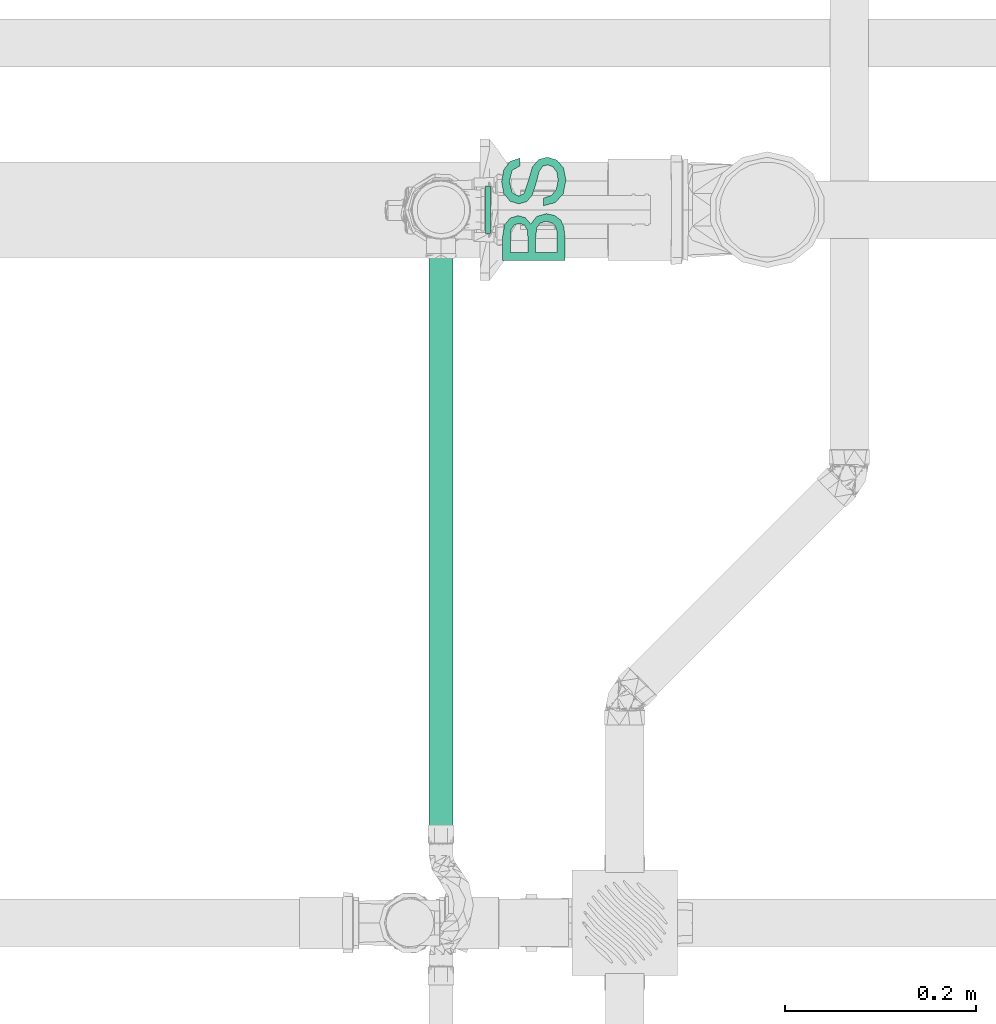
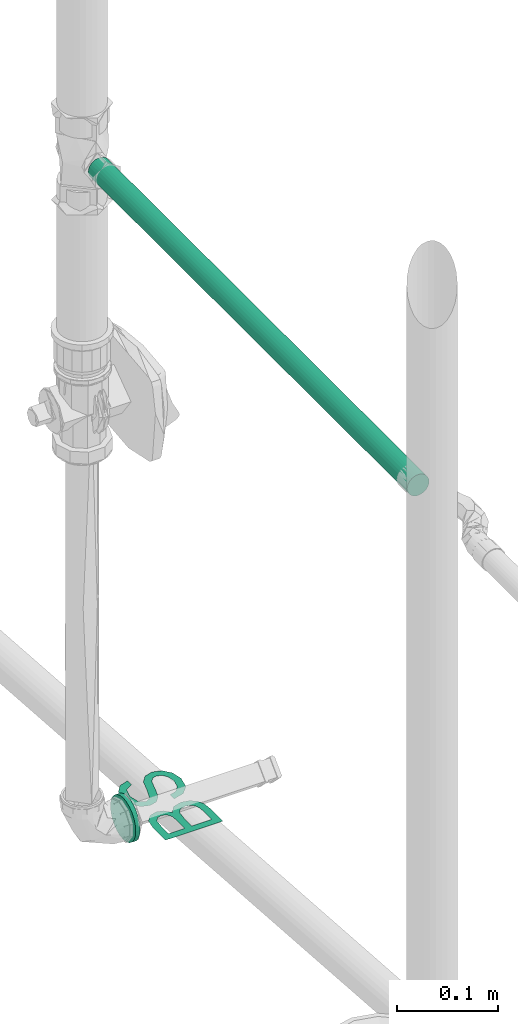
# One storey, part 80 of 589: 1 flow segment, 1 flow terminal.
"""IFC2X3 building model written with IfcOpenShell, lengths in millimetres."""

from ifc_helpers import new_model, entity, si_unit, converted_unit, derived_unit, direction, frame, frame_2d, origin, place, context, subcontext, project, spatial, circle, extrude, face_set, surface_model, source, transform, mapped, material, type_object, type_shapes, element, save


model = new_model("IFC2X3")

# Units and contexts
model_context = context("Model", 3, precision=0.01, world=origin(), true_north=direction((6.123031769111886e-17, 1.0)))
body_context = subcontext(model_context, "Body", "Model", "MODEL_VIEW")
ifc_project = project(units=[si_unit("LENGTHUNIT", "METRE", prefix="MILLI"), si_unit("AREAUNIT", "SQUARE_METRE"), si_unit("VOLUMEUNIT", "CUBIC_METRE"), converted_unit("PLANEANGLEUNIT", "DEGREE", entity("IfcRatioMeasure", 0.017453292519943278), si_unit("PLANEANGLEUNIT", "RADIAN"), dimensions=[0, 0, 0, 0, 0, 0, 0]), si_unit("MASSUNIT", "GRAM", prefix="KILO"), derived_unit("MASSDENSITYUNIT", [(si_unit("MASSUNIT", "GRAM", prefix="KILO"), 1), (si_unit("LENGTHUNIT", "METRE"), -3)]), derived_unit("IONCONCENTRATIONUNIT", [(si_unit("MASSUNIT", "GRAM", prefix="KILO"), 1), (si_unit("LENGTHUNIT", "METRE"), -3)]), derived_unit("MOMENTOFINERTIAUNIT", [(si_unit("LENGTHUNIT", "METRE"), 4)]), si_unit("TIMEUNIT", "SECOND"), si_unit("FREQUENCYUNIT", "HERTZ"), si_unit("THERMODYNAMICTEMPERATUREUNIT", "DEGREE_CELSIUS"), derived_unit("THERMALTRANSMITTANCEUNIT", [(si_unit("MASSUNIT", "GRAM", prefix="KILO"), 1), (si_unit("THERMODYNAMICTEMPERATUREUNIT", "KELVIN"), -1), (si_unit("TIMEUNIT", "SECOND"), -3)]), derived_unit("THERMALCONDUCTANCEUNIT", [(si_unit("MASSUNIT", "GRAM", prefix="KILO"), 1), (si_unit("THERMODYNAMICTEMPERATUREUNIT", "KELVIN"), -1), (si_unit("TIMEUNIT", "SECOND"), -3), (si_unit("LENGTHUNIT", "METRE"), 1)]), derived_unit("VOLUMETRICFLOWRATEUNIT", [(si_unit("LENGTHUNIT", "METRE"), 3), (si_unit("TIMEUNIT", "SECOND"), -1)]), derived_unit("MASSFLOWRATEUNIT", [(si_unit("MASSUNIT", "GRAM", prefix="KILO"), 1), (si_unit("TIMEUNIT", "SECOND"), -1)]), derived_unit("ROTATIONALFREQUENCYUNIT", [(si_unit("TIMEUNIT", "SECOND"), -1)]), si_unit("ELECTRICCURRENTUNIT", "AMPERE"), si_unit("ELECTRICVOLTAGEUNIT", "VOLT"), si_unit("POWERUNIT", "WATT"), si_unit("FORCEUNIT", "NEWTON", prefix="KILO"), si_unit("ILLUMINANCEUNIT", "LUX"), si_unit("LUMINOUSFLUXUNIT", "LUMEN"), si_unit("LUMINOUSINTENSITYUNIT", "CANDELA"), derived_unit("USERDEFINED", [(si_unit("MASSUNIT", "GRAM", prefix="KILO"), -1), (si_unit("LENGTHUNIT", "METRE"), -2), (si_unit("TIMEUNIT", "SECOND"), 3), (si_unit("LUMINOUSFLUXUNIT", "LUMEN"), 1)]), derived_unit("USERDEFINED", [(si_unit("MASSUNIT", "GRAM", prefix="KILO"), 1), (si_unit("TIMEUNIT", "SECOND"), -3), (si_unit("LENGTHUNIT", "METRE"), 3), (si_unit("ELECTRICCURRENTUNIT", "AMPERE"), -2)]), derived_unit("SOUNDPOWERUNIT", [(si_unit("MASSUNIT", "GRAM", prefix="KILO"), 1), (si_unit("TIMEUNIT", "SECOND"), -3), (si_unit("LENGTHUNIT", "METRE"), 2)]), derived_unit("SOUNDPRESSUREUNIT", [(si_unit("MASSUNIT", "GRAM", prefix="KILO"), 1), (si_unit("LENGTHUNIT", "METRE"), -1), (si_unit("TIMEUNIT", "SECOND"), -2)]), derived_unit("LINEARVELOCITYUNIT", [(si_unit("LENGTHUNIT", "METRE"), 1), (si_unit("TIMEUNIT", "SECOND"), -1)]), si_unit("PRESSUREUNIT", "PASCAL"), derived_unit("USERDEFINED", [(si_unit("MASSUNIT", "GRAM", prefix="KILO"), 1), (si_unit("LENGTHUNIT", "METRE"), -2), (si_unit("TIMEUNIT", "SECOND"), -2)]), derived_unit("LINEARFORCEUNIT", [(si_unit("MASSUNIT", "GRAM", prefix="KILO"), 1), (si_unit("TIMEUNIT", "SECOND"), -2)]), derived_unit("PLANARFORCEUNIT", [(si_unit("MASSUNIT", "GRAM", prefix="KILO"), 1), (si_unit("LENGTHUNIT", "METRE"), -1), (si_unit("TIMEUNIT", "SECOND"), -2)]), derived_unit("SPECIFICHEATCAPACITYUNIT", [(si_unit("THERMODYNAMICTEMPERATUREUNIT", "KELVIN"), -1), (si_unit("LENGTHUNIT", "METRE"), 2), (si_unit("TIMEUNIT", "SECOND"), -2)]), derived_unit("HEATINGVALUEUNIT", [(si_unit("LENGTHUNIT", "METRE"), 2), (si_unit("TIMEUNIT", "SECOND"), -2)]), derived_unit("VAPORPERMEABILITYUNIT", [(si_unit("LENGTHUNIT", "METRE"), -1), (si_unit("TIMEUNIT", "SECOND"), 1)]), derived_unit("DYNAMICVISCOSITYUNIT", [(si_unit("MASSUNIT", "GRAM", prefix="KILO"), 1), (si_unit("TIMEUNIT", "SECOND"), -1), (si_unit("LENGTHUNIT", "METRE"), -1)]), derived_unit("THERMALEXPANSIONCOEFFICIENTUNIT", [(si_unit("THERMODYNAMICTEMPERATUREUNIT", "KELVIN"), -1)]), derived_unit("MODULUSOFELASTICITYUNIT", [(si_unit("MASSUNIT", "GRAM", prefix="KILO"), 1), (si_unit("LENGTHUNIT", "METRE"), -1), (si_unit("TIMEUNIT", "SECOND"), -2)]), derived_unit("ISOTHERMALMOISTURECAPACITYUNIT", [(si_unit("LENGTHUNIT", "METRE"), 3), (si_unit("MASSUNIT", "GRAM", prefix="KILO"), -1)]), derived_unit("MOISTUREDIFFUSIVITYUNIT", [(si_unit("TIMEUNIT", "SECOND"), -1), (si_unit("LENGTHUNIT", "METRE"), 2)])], contexts=[model_context])

# Site, building, storey
site_placement = place(None, origin())
site = spatial("IfcSite", under=ifc_project, at=site_placement, Name="Default", CompositionType="ELEMENT")
building_placement = place(site_placement, origin())
building = spatial("IfcBuilding", under=site, at=building_placement, CompositionType="ELEMENT")
storey_placement = place(building_placement, frame((0.0, 0.0, 100.0)))
storey = spatial("IfcBuildingStorey", under=building, at=storey_placement, Name="TÉRREO", CompositionType="ELEMENT", Elevation=100.0)

# Flow segment
pipe_segment_type = type_object("IfcPipeSegmentType", Name="Tipos de tubos:PVC Marrom Soldável", PredefinedType="NOTDEFINED")
flow_segment_placement = place(storey_placement, origin())
element("IfcFlowSegment", 1, at=flow_segment_placement, inside=storey, type_object=pipe_segment_type, Name="Tipos de tubos:PVC Marrom Soldável", ObjectType="Tipos de tubos:PVC Marrom Soldável", context=body_context, shape_type="SweptSolid", body=[
    extrude(circle(Radius=12.5, at=frame_2d((0.0, 3.1470778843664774e-27), x_axis=(1.0, 0.0))), frame((-7562.714972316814, -1191.8519804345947, 1200.0), z_axis=(0.0, 1.0, 0.0), x_axis=(1.0, 0.0, 0.0)), (0.0, 0.0, 1.0), 629.227842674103),
])

# Flow terminal
ifc_material = material(Name="<Unnamed>")
distribution_element_type = type_object("IfcDistributionElementType", Name="Hidráulica_Ponto de Utilização_Uso Provável_Rodrigo MEP:Bacia Sanitária com Valvula de Descarga BS (Peso 32)", material=ifc_material)
shared_shape = source(origin(), body_context, "Body", "SurfaceModel", [
    surface_model("IfcFaceBasedSurfaceModel", [(0.0, 1.0202593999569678, 26.59527223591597), (24.7253488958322, 1.0202593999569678, 26.59527223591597), (35.19097852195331, 2.1441388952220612, 26.59527223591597), (42.29294043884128, 5.45998194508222, 26.59527223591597), (47.05149404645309, 11.709070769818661, 26.59527223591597), (48.97245119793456, 20.48489576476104, 26.59527223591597), (46.158767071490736, 30.639665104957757, 26.59527223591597), (38.116253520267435, 36.72933839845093, 26.59527223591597), (44.73996884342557, 42.5081514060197, 26.59527223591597), (46.93193239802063, 50.13618457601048, 26.59527223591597), (44.32548846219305, 58.48955841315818, 26.59527223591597), (37.119906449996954, 64.39590384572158, 26.59527223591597), (24.916647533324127, 66.31686099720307, 26.59527223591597), (0.0, 66.31686099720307, 26.59527223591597), (8.162075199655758, 39.79011659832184, 26.59527223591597), (8.162075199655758, 58.1547857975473, 26.59527223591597), (21.93557709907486, 58.1547857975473, 26.59527223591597), (32.42511905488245, 57.301912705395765, 26.59527223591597), (37.12787722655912, 54.15345596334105, 26.59527223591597), (38.76985719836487, 48.82897721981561, 26.59527223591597), (37.008315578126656, 43.51246925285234, 26.59527223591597), (31.77151537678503, 40.49154493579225, 26.59527223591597), (23.06742737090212, 39.79011659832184, 26.59527223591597), (8.162075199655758, 9.182334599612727, 26.59527223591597), (8.162075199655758, 31.62804139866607, 26.59527223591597), (24.103628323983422, 31.62804139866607, 26.59527223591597), (34.18666067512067, 30.53604500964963, 26.59527223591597), (39.24810379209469, 26.749926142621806, 26.59527223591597), (40.81037599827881, 20.405187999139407, 26.59527223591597), (39.47925631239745, 14.905352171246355, 26.59527223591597), (36.08370549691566, 11.27864883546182, 26.59527223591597), (30.958496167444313, 9.501165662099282, 26.59527223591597), (24.900705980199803, 9.182334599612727, 26.59527223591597), (57.13452639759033, 23.46596619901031, 26.59527223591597), (60.65760963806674, 10.999671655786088, 26.59527223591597), (69.8797981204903, 2.741947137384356, 26.59527223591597), (84.45834845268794, 0.0, 26.59527223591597), (96.80508134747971, 2.5426777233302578, 26.59527223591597), (105.22222139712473, 9.668551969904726, 26.59527223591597), (108.14749639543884, 19.432753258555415, 26.59527223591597), (105.60481867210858, 28.66291251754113, 26.59527223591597), (97.70577909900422, 35.27865706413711, 26.59527223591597), (83.26273196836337, 39.375636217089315, 26.59527223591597), (69.93559355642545, 43.934920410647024, 26.59527223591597), (67.33712039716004, 49.594171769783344, 26.59527223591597), (71.0036776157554, 56.369331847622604, 26.59527223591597), (82.68883605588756, 59.17504519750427, 26.59527223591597), (94.34211138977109, 56.33744874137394, 26.59527223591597), (98.9651617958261, 47.9521917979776, 26.59527223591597), (107.12723699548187, 47.9521917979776, 26.59527223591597), (103.89110171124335, 58.17072735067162, 26.59527223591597), (95.28266302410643, 65.00965364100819, 26.59527223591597), (82.37000499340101, 67.33712039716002, 26.59527223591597), (70.27036617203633, 65.11327373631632, 26.59527223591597), (62.004670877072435, 58.59317850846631, 26.59527223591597), (59.175045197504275, 49.355048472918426, 26.59527223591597), (61.462658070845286, 41.24079793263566, 26.59527223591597), (68.40520445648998, 35.167066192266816, 26.59527223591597), (81.19830083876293, 31.141824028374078, 26.59527223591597), (93.0827286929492, 28.025250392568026, 26.59527223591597), (98.63038918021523, 24.318839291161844, 26.59527223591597), (99.98542119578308, 19.225513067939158, 26.59527223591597), (98.17605491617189, 13.749589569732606, 26.59527223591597), (92.66824831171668, 9.652610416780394, 26.59527223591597), (84.13951739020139, 8.162075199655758, 26.59527223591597), (74.35140377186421, 10.130857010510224, 26.59527223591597), (67.92695786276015, 15.29592022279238, 26.59527223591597), (65.2966015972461, 23.46596619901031, 26.59527223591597), (28.053488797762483, 79.08730098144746, 26.59527223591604), (28.9053431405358, 79.08730098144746, 33.065748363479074), (31.40285370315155, 79.08730098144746, 39.095272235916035), (35.375819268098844, 79.08730098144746, 44.27294176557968), (40.553488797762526, 79.08730098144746, 48.24590733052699), (46.58301267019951, 79.08730098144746, 50.74341789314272), (53.05348879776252, 79.08730098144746, 51.59527223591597), (59.52396492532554, 79.08730098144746, 50.74341789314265), (65.55348879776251, 79.08730098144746, 48.245907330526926), (70.73115832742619, 79.08730098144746, 44.27294176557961), (74.70412389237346, 79.08730098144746, 39.09527223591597), (77.20163445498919, 79.08730098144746, 33.065748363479), (78.0534887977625, 79.08730098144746, 26.595272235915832), (77.20163445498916, 79.08730098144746, 20.124796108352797), (74.70412389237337, 79.08730098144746, 14.095272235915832), (70.73115832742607, 79.08730098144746, 8.91760270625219), (65.55348879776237, 79.08730098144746, 4.944637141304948), (59.52396492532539, 79.08730098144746, 2.447126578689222), (53.05348879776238, 79.08730098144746, 1.5952722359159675), (46.58301267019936, 79.08730098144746, 2.4471265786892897), (40.5534887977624, 79.08730098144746, 4.94463714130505), (35.37581926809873, 79.08730098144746, 8.91760270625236), (31.402853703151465, 79.08730098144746, 14.095272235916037), (28.905343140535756, 79.08730098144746, 20.124796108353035), (28.053488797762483, 84.0873009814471, 26.59527223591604), (28.9053431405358, 84.0873009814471, 33.065748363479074), (31.40285370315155, 84.0873009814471, 39.095272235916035), (35.375819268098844, 84.0873009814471, 44.27294176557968), (40.553488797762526, 84.0873009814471, 48.24590733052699), (46.58301267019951, 84.0873009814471, 50.74341789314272), (53.05348879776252, 84.0873009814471, 51.59527223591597), (59.52396492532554, 84.0873009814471, 50.74341789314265), (65.55348879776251, 84.0873009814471, 48.245907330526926), (70.73115832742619, 84.0873009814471, 44.27294176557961), (74.70412389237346, 84.0873009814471, 39.09527223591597), (77.20163445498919, 84.0873009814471, 33.065748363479), (78.0534887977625, 84.0873009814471, 26.59527223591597), (77.20163445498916, 84.0873009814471, 20.124796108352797), (74.70412389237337, 84.0873009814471, 14.095272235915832), (70.73115832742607, 84.0873009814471, 8.91760270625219), (65.55348879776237, 84.0873009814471, 4.944637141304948), (59.52396492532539, 84.0873009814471, 2.447126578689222), (53.05348879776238, 84.0873009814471, 1.5952722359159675), (46.58301267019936, 84.0873009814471, 2.4471265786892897), (40.5534887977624, 84.0873009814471, 4.94463714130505), (35.37581926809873, 84.0873009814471, 8.91760270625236), (31.402853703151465, 84.0873009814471, 14.095272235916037), (28.905343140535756, 84.0873009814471, 20.124796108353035)], [face_set([[[0, 1, 2, 3, 4, 5, 6, 7, 8, 9, 10, 11, 12, 13], [14, 15, 16, 17, 18, 19, 20, 21, 22], [23, 24, 25, 26, 27, 28, 29, 30, 31, 32]], [[33, 34, 35, 36, 37, 38, 39, 40, 41, 42, 43, 44, 45, 46, 47, 48, 49, 50, 51, 52, 53, 54, 55, 56, 57, 58, 59, 60, 61, 62, 63, 64, 65, 66, 67]]]), face_set([[[68, 69, 70, 71, 72, 73, 74, 75, 76, 77, 78, 79, 80, 81, 82, 83, 84, 85, 86, 87, 88, 89, 90, 91]], [[92, 93, 94, 95, 96, 97, 98, 99, 100, 101, 102, 103, 104, 105, 106, 107, 108, 109, 110, 111, 112, 113, 114, 115]], [[92, 115, 91, 68]], [[115, 114, 90, 91]], [[113, 112, 88, 89]], [[114, 113, 89, 90]], [[112, 111, 87, 88]], [[86, 87, 111, 110]], [[110, 109, 85, 86]], [[109, 108, 84, 85]], [[107, 106, 82, 83]], [[108, 107, 83, 84]], [[106, 105, 81, 82]], [[80, 81, 105, 104]], [[104, 103, 79, 80]], [[103, 102, 78, 79]], [[101, 100, 76, 77]], [[102, 101, 77, 78]], [[100, 99, 75, 76]], [[74, 75, 99, 98]], [[98, 97, 73, 74]], [[97, 96, 72, 73]], [[95, 94, 70, 71]], [[96, 95, 71, 72]], [[94, 93, 69, 70]], [[68, 69, 93, 92]]])]),
])
type_shapes(distribution_element_type, [shared_shape])
flow_terminal_placement = place(storey_placement, frame((-7431.925051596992, -581.977626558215, 353.4047277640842), z_axis=(0.0, 0.0, 1.0), x_axis=(0.0, 1.0, 0.0)))
element("IfcFlowTerminal", 2, at=flow_terminal_placement, inside=storey, type_object=distribution_element_type, material=ifc_material, Name="Hidráulica_Ponto de Utilização_Uso Provável_Rodrigo MEP:Bacia Sanitária com Valvula de Descarga BS (Peso 32)", ObjectType="Hidráulica_Ponto de Utilização_Uso Provável_Rodrigo MEP:Bacia Sanitária com Valvula de Descarga BS (Peso 32)", context=body_context, shape_type="MappedRepresentation", body=[
    mapped(shared_shape, transform((0.0, 0.0, 0.0), scale=1.0)),
])

save(model, "model.ifc")
